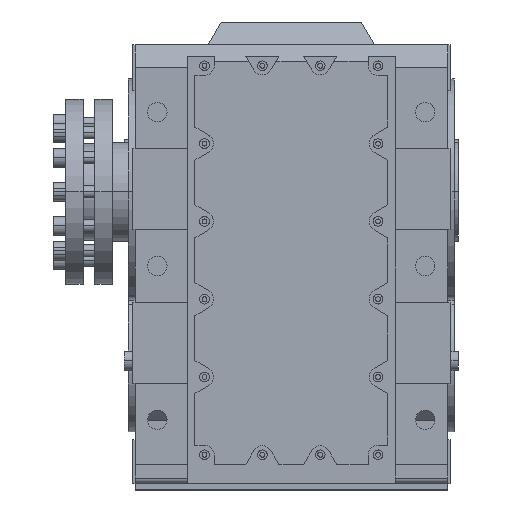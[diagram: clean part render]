
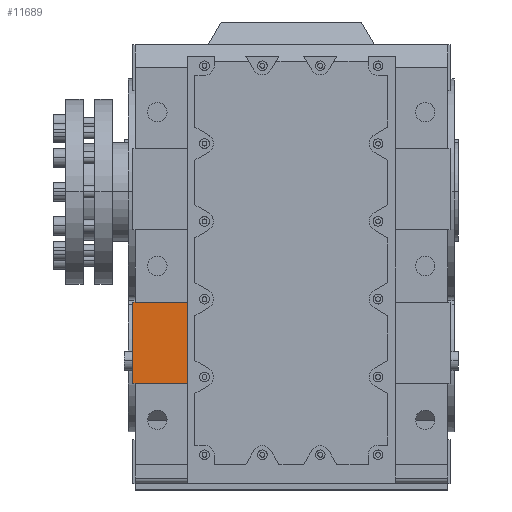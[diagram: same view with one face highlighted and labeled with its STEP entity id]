
A CAD part, top view. The second image highlights one B-rep face of the part: STEP entity #11689.
In plain terms, the highlighted planar face has unit normal (0, 0, 1).
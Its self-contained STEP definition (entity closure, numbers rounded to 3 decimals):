
#644 = PLANE('',#645);
#645 = AXIS2_PLACEMENT_3D('',#646,#647,#648);
#646 = CARTESIAN_POINT('',(-320.,-386.667,355.));
#647 = DIRECTION('',(0.,-1.,0.));
#648 = DIRECTION('',(0.,0.,-1.));
#700 = PLANE('',#701);
#701 = AXIS2_PLACEMENT_3D('',#702,#703,#704);
#702 = CARTESIAN_POINT('',(-320.,-223.333,355.));
#703 = DIRECTION('',(0.,1.,0.));
#704 = DIRECTION('',(0.,0.,1.));
#3852 = VERTEX_POINT('',#3853);
#3853 = CARTESIAN_POINT('',(-320.,-223.333,342.5));
#3867 = PLANE('',#3868);
#3868 = AXIS2_PLACEMENT_3D('',#3869,#3870,#3871);
#3869 = CARTESIAN_POINT('',(-320.,-386.667,355.));
#3870 = DIRECTION('',(1.,0.,0.));
#3871 = DIRECTION('',(0.,0.,-1.));
#3879 = EDGE_CURVE('',#3852,#3880,#3882,.T.);
#3880 = VERTEX_POINT('',#3881);
#3881 = CARTESIAN_POINT('',(-315.,-223.333,342.5));
#3882 = SURFACE_CURVE('',#3883,(#3887,#3894),.PCURVE_S1.);
#3883 = LINE('',#3884,#3885);
#3884 = CARTESIAN_POINT('',(-332.5,-223.333,342.5));
#3885 = VECTOR('',#3886,1.);
#3886 = DIRECTION('',(1.,0.,0.));
#3887 = PCURVE('',#700,#3888);
#3888 = DEFINITIONAL_REPRESENTATION('',(#3889),#3893);
#3889 = LINE('',#3890,#3891);
#3890 = CARTESIAN_POINT('',(-12.5,-12.5));
#3891 = VECTOR('',#3892,1.);
#3892 = DIRECTION('',(0.,1.));
#3893 = ( GEOMETRIC_REPRESENTATION_CONTEXT(2) 
PARAMETRIC_REPRESENTATION_CONTEXT() REPRESENTATION_CONTEXT('2D SPACE',''
  ) );
#3894 = PCURVE('',#3895,#3900);
#3895 = PLANE('',#3896);
#3896 = AXIS2_PLACEMENT_3D('',#3897,#3898,#3899);
#3897 = CARTESIAN_POINT('',(-315.,-550.,342.5));
#3898 = DIRECTION('',(0.,0.,-1.));
#3899 = DIRECTION('',(0.,1.,0.));
#3900 = DEFINITIONAL_REPRESENTATION('',(#3901),#3905);
#3901 = LINE('',#3902,#3903);
#3902 = CARTESIAN_POINT('',(326.667,-17.5));
#3903 = VECTOR('',#3904,1.);
#3904 = DIRECTION('',(0.,1.));
#3905 = ( GEOMETRIC_REPRESENTATION_CONTEXT(2) 
PARAMETRIC_REPRESENTATION_CONTEXT() REPRESENTATION_CONTEXT('2D SPACE',''
  ) );
#5810 = VERTEX_POINT('',#5811);
#5811 = CARTESIAN_POINT('',(-315.,-386.667,342.5));
#5832 = EDGE_CURVE('',#5810,#5833,#5835,.T.);
#5833 = VERTEX_POINT('',#5834);
#5834 = CARTESIAN_POINT('',(-320.,-386.667,342.5));
#5835 = SURFACE_CURVE('',#5836,(#5840,#5847),.PCURVE_S1.);
#5836 = LINE('',#5837,#5838);
#5837 = CARTESIAN_POINT('',(-332.5,-386.667,342.5));
#5838 = VECTOR('',#5839,1.);
#5839 = DIRECTION('',(-1.,0.,0.));
#5840 = PCURVE('',#644,#5841);
#5841 = DEFINITIONAL_REPRESENTATION('',(#5842),#5846);
#5842 = LINE('',#5843,#5844);
#5843 = CARTESIAN_POINT('',(12.5,-12.5));
#5844 = VECTOR('',#5845,1.);
#5845 = DIRECTION('',(0.,-1.));
#5846 = ( GEOMETRIC_REPRESENTATION_CONTEXT(2) 
PARAMETRIC_REPRESENTATION_CONTEXT() REPRESENTATION_CONTEXT('2D SPACE',''
  ) );
#5847 = PCURVE('',#3895,#5848);
#5848 = DEFINITIONAL_REPRESENTATION('',(#5849),#5853);
#5849 = LINE('',#5850,#5851);
#5850 = CARTESIAN_POINT('',(163.333,-17.5));
#5851 = VECTOR('',#5852,1.);
#5852 = DIRECTION('',(0.,-1.));
#5853 = ( GEOMETRIC_REPRESENTATION_CONTEXT(2) 
PARAMETRIC_REPRESENTATION_CONTEXT() REPRESENTATION_CONTEXT('2D SPACE',''
  ) );
#11282 = PLANE('',#11283);
#11283 = AXIS2_PLACEMENT_3D('',#11284,#11285,#11286);
#11284 = CARTESIAN_POINT('',(-210.,-386.667,342.5));
#11285 = DIRECTION('',(1.,0.,0.));
#11286 = DIRECTION('',(0.,0.,-1.));
#11531 = EDGE_CURVE('',#3852,#5833,#11532,.T.);
#11532 = SURFACE_CURVE('',#11533,(#11537,#11544),.PCURVE_S1.);
#11533 = LINE('',#11534,#11535);
#11534 = CARTESIAN_POINT('',(-320.,-386.667,342.5));
#11535 = VECTOR('',#11536,1.);
#11536 = DIRECTION('',(0.,-1.,0.));
#11537 = PCURVE('',#3867,#11538);
#11538 = DEFINITIONAL_REPRESENTATION('',(#11539),#11543);
#11539 = LINE('',#11540,#11541);
#11540 = CARTESIAN_POINT('',(12.5,0.));
#11541 = VECTOR('',#11542,1.);
#11542 = DIRECTION('',(0.,-1.));
#11543 = ( GEOMETRIC_REPRESENTATION_CONTEXT(2) 
PARAMETRIC_REPRESENTATION_CONTEXT() REPRESENTATION_CONTEXT('2D SPACE',''
  ) );
#11544 = PCURVE('',#3895,#11545);
#11545 = DEFINITIONAL_REPRESENTATION('',(#11546),#11550);
#11546 = LINE('',#11547,#11548);
#11547 = CARTESIAN_POINT('',(163.333,-5.));
#11548 = VECTOR('',#11549,1.);
#11549 = DIRECTION('',(-1.,0.));
#11550 = ( GEOMETRIC_REPRESENTATION_CONTEXT(2) 
PARAMETRIC_REPRESENTATION_CONTEXT() REPRESENTATION_CONTEXT('2D SPACE',''
  ) );
#11596 = PLANE('',#11597);
#11597 = AXIS2_PLACEMENT_3D('',#11598,#11599,#11600);
#11598 = CARTESIAN_POINT('',(-332.5,-223.333,342.5));
#11599 = DIRECTION('',(0.,-1.,0.));
#11600 = DIRECTION('',(1.,0.,0.));
#11689 = ADVANCED_FACE('',(#11690),#3895,.F.);
#11690 = FACE_BOUND('',#11691,.T.);
#11691 = EDGE_LOOP('',(#11692,#11720,#11743,#11764,#11765,#11766));
#11692 = ORIENTED_EDGE('',*,*,#11693,.F.);
#11693 = EDGE_CURVE('',#11694,#5810,#11696,.T.);
#11694 = VERTEX_POINT('',#11695);
#11695 = CARTESIAN_POINT('',(-210.,-386.667,342.5));
#11696 = SURFACE_CURVE('',#11697,(#11701,#11708),.PCURVE_S1.);
#11697 = LINE('',#11698,#11699);
#11698 = CARTESIAN_POINT('',(-332.5,-386.667,342.5));
#11699 = VECTOR('',#11700,1.);
#11700 = DIRECTION('',(-1.,0.,0.));
#11701 = PCURVE('',#3895,#11702);
#11702 = DEFINITIONAL_REPRESENTATION('',(#11703),#11707);
#11703 = LINE('',#11704,#11705);
#11704 = CARTESIAN_POINT('',(163.333,-17.5));
#11705 = VECTOR('',#11706,1.);
#11706 = DIRECTION('',(0.,-1.));
#11707 = ( GEOMETRIC_REPRESENTATION_CONTEXT(2) 
PARAMETRIC_REPRESENTATION_CONTEXT() REPRESENTATION_CONTEXT('2D SPACE',''
  ) );
#11708 = PCURVE('',#11709,#11714);
#11709 = PLANE('',#11710);
#11710 = AXIS2_PLACEMENT_3D('',#11711,#11712,#11713);
#11711 = CARTESIAN_POINT('',(-332.5,-386.667,342.5));
#11712 = DIRECTION('',(0.,1.,0.));
#11713 = DIRECTION('',(-1.,0.,0.));
#11714 = DEFINITIONAL_REPRESENTATION('',(#11715),#11719);
#11715 = LINE('',#11716,#11717);
#11716 = CARTESIAN_POINT('',(0.,0.));
#11717 = VECTOR('',#11718,1.);
#11718 = DIRECTION('',(1.,0.));
#11719 = ( GEOMETRIC_REPRESENTATION_CONTEXT(2) 
PARAMETRIC_REPRESENTATION_CONTEXT() REPRESENTATION_CONTEXT('2D SPACE',''
  ) );
#11720 = ORIENTED_EDGE('',*,*,#11721,.F.);
#11721 = EDGE_CURVE('',#11722,#11694,#11724,.T.);
#11722 = VERTEX_POINT('',#11723);
#11723 = CARTESIAN_POINT('',(-210.,-223.333,342.5));
#11724 = SURFACE_CURVE('',#11725,(#11729,#11736),.PCURVE_S1.);
#11725 = LINE('',#11726,#11727);
#11726 = CARTESIAN_POINT('',(-210.,296.,342.5));
#11727 = VECTOR('',#11728,1.);
#11728 = DIRECTION('',(0.,-1.,0.));
#11729 = PCURVE('',#3895,#11730);
#11730 = DEFINITIONAL_REPRESENTATION('',(#11731),#11735);
#11731 = LINE('',#11732,#11733);
#11732 = CARTESIAN_POINT('',(846.,105.));
#11733 = VECTOR('',#11734,1.);
#11734 = DIRECTION('',(-1.,0.));
#11735 = ( GEOMETRIC_REPRESENTATION_CONTEXT(2) 
PARAMETRIC_REPRESENTATION_CONTEXT() REPRESENTATION_CONTEXT('2D SPACE',''
  ) );
#11736 = PCURVE('',#11282,#11737);
#11737 = DEFINITIONAL_REPRESENTATION('',(#11738),#11742);
#11738 = LINE('',#11739,#11740);
#11739 = CARTESIAN_POINT('',(0.,682.667));
#11740 = VECTOR('',#11741,1.);
#11741 = DIRECTION('',(0.,-1.));
#11742 = ( GEOMETRIC_REPRESENTATION_CONTEXT(2) 
PARAMETRIC_REPRESENTATION_CONTEXT() REPRESENTATION_CONTEXT('2D SPACE',''
  ) );
#11743 = ORIENTED_EDGE('',*,*,#11744,.F.);
#11744 = EDGE_CURVE('',#3880,#11722,#11745,.T.);
#11745 = SURFACE_CURVE('',#11746,(#11750,#11757),.PCURVE_S1.);
#11746 = LINE('',#11747,#11748);
#11747 = CARTESIAN_POINT('',(-332.5,-223.333,342.5));
#11748 = VECTOR('',#11749,1.);
#11749 = DIRECTION('',(1.,0.,0.));
#11750 = PCURVE('',#3895,#11751);
#11751 = DEFINITIONAL_REPRESENTATION('',(#11752),#11756);
#11752 = LINE('',#11753,#11754);
#11753 = CARTESIAN_POINT('',(326.667,-17.5));
#11754 = VECTOR('',#11755,1.);
#11755 = DIRECTION('',(0.,1.));
#11756 = ( GEOMETRIC_REPRESENTATION_CONTEXT(2) 
PARAMETRIC_REPRESENTATION_CONTEXT() REPRESENTATION_CONTEXT('2D SPACE',''
  ) );
#11757 = PCURVE('',#11596,#11758);
#11758 = DEFINITIONAL_REPRESENTATION('',(#11759),#11763);
#11759 = LINE('',#11760,#11761);
#11760 = CARTESIAN_POINT('',(0.,0.));
#11761 = VECTOR('',#11762,1.);
#11762 = DIRECTION('',(1.,0.));
#11763 = ( GEOMETRIC_REPRESENTATION_CONTEXT(2) 
PARAMETRIC_REPRESENTATION_CONTEXT() REPRESENTATION_CONTEXT('2D SPACE',''
  ) );
#11764 = ORIENTED_EDGE('',*,*,#3879,.F.);
#11765 = ORIENTED_EDGE('',*,*,#11531,.T.);
#11766 = ORIENTED_EDGE('',*,*,#5832,.F.);
